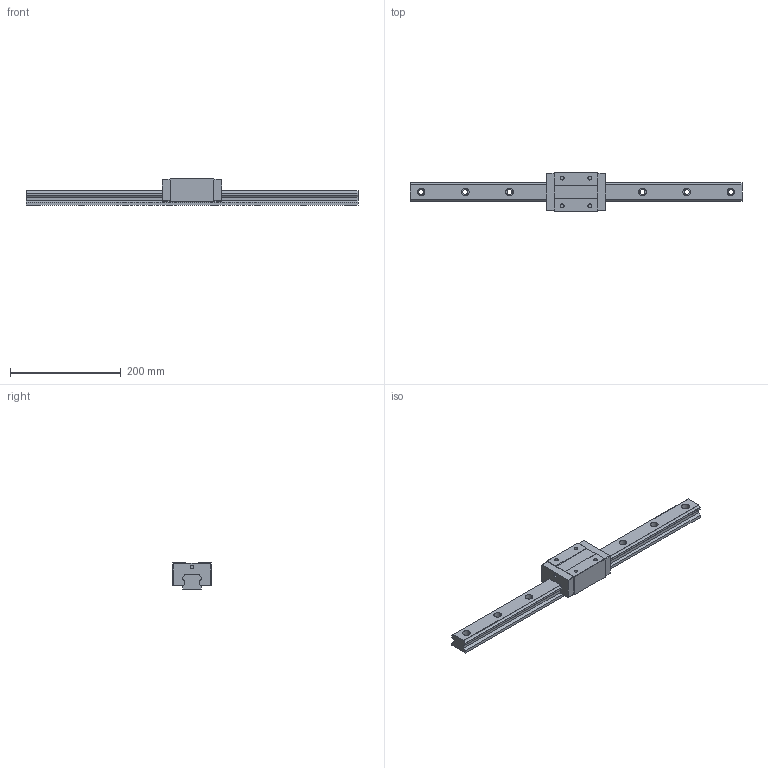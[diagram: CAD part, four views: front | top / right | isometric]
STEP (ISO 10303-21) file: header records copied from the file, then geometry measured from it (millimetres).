
FILE_DESCRIPTION (( 'STEP AP203' ), '1' );
FILE_NAME ('TRS35VN-XNC.STEP', '2024-08-16T07:28:00', ( '' ), ( '' ), 'SwSTEP 2.0', 'SolidWorks 2021', '' );
FILE_SCHEMA (( 'CONFIG_CONTROL_DESIGN' ));
Length unit declared in the file: millimetre
Products named in the file (1): TRS35VN-XNC
Bounding box: 600 x 70 x 48 mm (x, y, z)
Volume: 686692.9 mm3; surface area: 112500.8 mm2
Topology: 1 solids, 1 shells, 164 faces, 448 edges, 296 vertices
Faces by surface type: plane 84, cylinder 80
Entity records: 5345 total; most frequent: DIRECTION 942, CARTESIAN_POINT 909, ORIENTED_EDGE 896, EDGE_CURVE 448, AXIS2_PLACEMENT_3D 329, VERTEX_POINT 296, VECTOR 284, LINE 284
